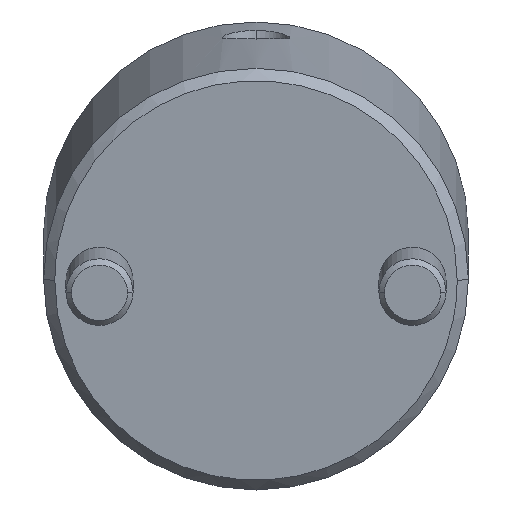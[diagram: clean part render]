
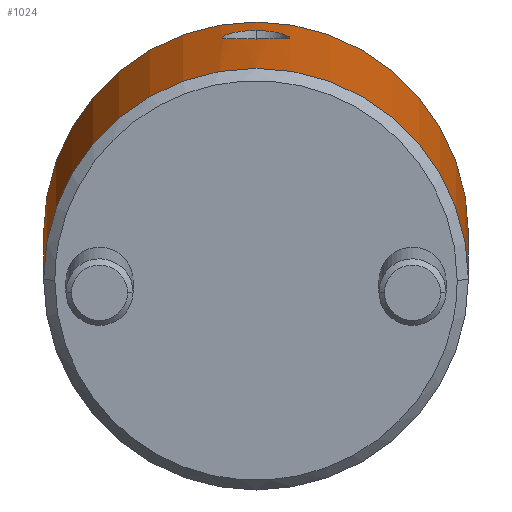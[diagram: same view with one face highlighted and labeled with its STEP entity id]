
A CAD part, front view. The second image highlights one B-rep face of the part: STEP entity #1024.
In plain terms, the highlighted cylindrical face has radius 19 mm (diameter 38 mm), a partial arc.
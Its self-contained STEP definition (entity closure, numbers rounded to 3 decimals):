
#760=CARTESIAN_POINT('Vertex',(0.,19.,1.)) ;
#763=CARTESIAN_POINT('Axis2P3D Location',(0.,0.,1.)) ;
#767=CARTESIAN_POINT('Vertex',(0.,-19.,1.)) ;
#919=CARTESIAN_POINT('Axis2P3D Location',(0.,0.,-1.8)) ;
#924=CARTESIAN_POINT('Line Origine',(0.,19.,-1.8)) ;
#928=CARTESIAN_POINT('Vertex',(0.,19.,35.)) ;
#931=CARTESIAN_POINT('Axis2P3D Location',(0.,0.,35.)) ;
#935=CARTESIAN_POINT('Vertex',(0.,-19.,35.)) ;
#938=CARTESIAN_POINT('Line Origine',(0.,-19.,-1.8)) ;
#950=CARTESIAN_POINT('Control Point',(19.,0.,28.749)) ;
#951=CARTESIAN_POINT('Control Point',(19.,0.083,28.749)) ;
#952=CARTESIAN_POINT('Control Point',(19.,0.165,28.746)) ;
#953=CARTESIAN_POINT('Control Point',(18.999,0.248,28.74)) ;
#954=CARTESIAN_POINT('Control Point',(18.995,0.495,28.714)) ;
#955=CARTESIAN_POINT('Control Point',(18.987,0.739,28.661)) ;
#956=CARTESIAN_POINT('Control Point',(18.979,0.904,28.613)) ;
#957=CARTESIAN_POINT('Control Point',(18.962,1.22,28.496)) ;
#958=CARTESIAN_POINT('Control Point',(18.94,1.514,28.337)) ;
#959=CARTESIAN_POINT('Control Point',(18.928,1.657,28.245)) ;
#960=CARTESIAN_POINT('Control Point',(18.903,1.931,28.043)) ;
#961=CARTESIAN_POINT('Control Point',(18.876,2.173,27.806)) ;
#962=CARTESIAN_POINT('Control Point',(18.862,2.286,27.678)) ;
#963=CARTESIAN_POINT('Control Point',(18.836,2.494,27.407)) ;
#964=CARTESIAN_POINT('Control Point',(18.813,2.664,27.109)) ;
#965=CARTESIAN_POINT('Control Point',(18.802,2.738,26.955)) ;
#966=CARTESIAN_POINT('Control Point',(18.783,2.864,26.639)) ;
#967=CARTESIAN_POINT('Control Point',(18.77,2.946,26.305)) ;
#968=CARTESIAN_POINT('Control Point',(18.766,2.976,26.134)) ;
#969=CARTESIAN_POINT('Control Point',(18.76,3.011,25.795)) ;
#970=CARTESIAN_POINT('Control Point',(18.762,2.998,25.456)) ;
#971=CARTESIAN_POINT('Control Point',(18.765,2.979,25.287)) ;
#972=CARTESIAN_POINT('Control Point',(18.777,2.904,24.869)) ;
#973=CARTESIAN_POINT('Control Point',(18.799,2.759,24.473)) ;
#974=CARTESIAN_POINT('Control Point',(18.816,2.645,24.245)) ;
#975=CARTESIAN_POINT('Control Point',(18.859,2.328,23.745)) ;
#976=CARTESIAN_POINT('Control Point',(18.907,1.9,23.338)) ;
#977=CARTESIAN_POINT('Control Point',(18.934,1.62,23.139)) ;
#978=CARTESIAN_POINT('Control Point',(18.971,1.134,22.89)) ;
#979=CARTESIAN_POINT('Control Point',(18.992,0.605,22.755)) ;
#980=CARTESIAN_POINT('Control Point',(18.997,0.404,22.72)) ;
#981=CARTESIAN_POINT('Control Point',(19.,0.203,22.704)) ;
#982=CARTESIAN_POINT('Control Point',(19.,0.,22.704)) ;
#983=CARTESIAN_POINT('Vertex',(19.,0.,28.749)) ;
#985=CARTESIAN_POINT('Vertex',(19.,0.,22.704)) ;
#989=CARTESIAN_POINT('Control Point',(19.,0.,22.704)) ;
#990=CARTESIAN_POINT('Control Point',(19.,-0.168,22.704)) ;
#991=CARTESIAN_POINT('Control Point',(18.998,-0.336,22.715)) ;
#992=CARTESIAN_POINT('Control Point',(18.994,-0.503,22.739)) ;
#993=CARTESIAN_POINT('Control Point',(18.983,-0.835,22.809)) ;
#994=CARTESIAN_POINT('Control Point',(18.966,-1.155,22.925)) ;
#995=CARTESIAN_POINT('Control Point',(18.956,-1.309,22.993)) ;
#996=CARTESIAN_POINT('Control Point',(18.933,-1.607,23.152)) ;
#997=CARTESIAN_POINT('Control Point',(18.907,-1.881,23.351)) ;
#998=CARTESIAN_POINT('Control Point',(18.894,-2.01,23.46)) ;
#999=CARTESIAN_POINT('Control Point',(18.867,-2.252,23.694)) ;
#1000=CARTESIAN_POINT('Control Point',(18.841,-2.457,23.961)) ;
#1001=CARTESIAN_POINT('Control Point',(18.828,-2.551,24.102)) ;
#1002=CARTESIAN_POINT('Control Point',(18.799,-2.759,24.466)) ;
#1003=CARTESIAN_POINT('Control Point',(18.778,-2.9,24.863)) ;
#1004=CARTESIAN_POINT('Control Point',(18.768,-2.959,25.114)) ;
#1005=CARTESIAN_POINT('Control Point',(18.759,-3.015,25.535)) ;
#1006=CARTESIAN_POINT('Control Point',(18.762,-2.996,25.959)) ;
#1007=CARTESIAN_POINT('Control Point',(18.765,-2.976,26.13)) ;
#1008=CARTESIAN_POINT('Control Point',(18.778,-2.898,26.553)) ;
#1009=CARTESIAN_POINT('Control Point',(18.801,-2.748,26.955)) ;
#1010=CARTESIAN_POINT('Control Point',(18.817,-2.632,27.187)) ;
#1011=CARTESIAN_POINT('Control Point',(18.861,-2.311,27.694)) ;
#1012=CARTESIAN_POINT('Control Point',(18.909,-1.881,28.106)) ;
#1013=CARTESIAN_POINT('Control Point',(18.936,-1.604,28.308)) ;
#1014=CARTESIAN_POINT('Control Point',(18.971,-1.123,28.56)) ;
#1015=CARTESIAN_POINT('Control Point',(18.992,-0.597,28.698)) ;
#1016=CARTESIAN_POINT('Control Point',(18.997,-0.399,28.732)) ;
#1017=CARTESIAN_POINT('Control Point',(19.,-0.2,28.749)) ;
#1018=CARTESIAN_POINT('Control Point',(19.,0.,28.749)) ;
#764=DIRECTION('Axis2P3D Direction',(0.,0.,1.)) ;
#920=DIRECTION('Axis2P3D Direction',(0.,-0.,1.)) ;
#921=DIRECTION('Axis2P3D XDirection',(0.,-1.,0.)) ;
#925=DIRECTION('Vector Direction',(0.,0.,1.)) ;
#932=DIRECTION('Axis2P3D Direction',(0.,-0.,1.)) ;
#939=DIRECTION('Vector Direction',(0.,0.,1.)) ;
#765=AXIS2_PLACEMENT_3D('Circle Axis2P3D',#763,#764,$) ;
#922=AXIS2_PLACEMENT_3D('Cylinder Axis2P3D',#919,#920,#921) ;
#933=AXIS2_PLACEMENT_3D('Circle Axis2P3D',#931,#932,$) ;
#944=ORIENTED_EDGE('',*,*,#930,.F.) ;
#945=ORIENTED_EDGE('',*,*,#937,.T.) ;
#946=ORIENTED_EDGE('',*,*,#942,.T.) ;
#947=ORIENTED_EDGE('',*,*,#769,.F.) ;
#1021=ORIENTED_EDGE('',*,*,#987,.T.) ;
#1022=ORIENTED_EDGE('',*,*,#1019,.T.) ;
#1023=FACE_BOUND('',#1020,.T.) ;
#926=VECTOR('Line Direction',#925,1.) ;
#940=VECTOR('Line Direction',#939,1.) ;
#1024=ADVANCED_FACE('MANIFOLD_SOLID_BREP #1118',(#948,#1023),#923,.T.) ;
#949=B_SPLINE_CURVE_WITH_KNOTS('',5,(#950,#951,#952,#953,#954,#955,#956,#957,#958,#959,#960,#961,#962,#963,#964,#965,#966,#967,#968,#969,#970,#971,#972,#973,#974,#975,#976,#977,#978,#979,#980,#981,#982),.UNSPECIFIED.,.F.,.U.,(6,3,3,3,3,3,3,3,3,3,6),(0.,0.591,1.779,2.983,4.199,5.399,6.591,7.777,9.567,11.962,13.402),.UNSPECIFIED.) ;
#988=B_SPLINE_CURVE_WITH_KNOTS('',5,(#989,#990,#991,#992,#993,#994,#995,#996,#997,#998,#999,#1000,#1001,#1002,#1003,#1004,#1005,#1006,#1007,#1008,#1009,#1010,#1011,#1012,#1013,#1014,#1015,#1016,#1017,#1018),.UNSPECIFIED.,.F.,.U.,(6,3,3,3,3,3,3,3,3,6),(0.,1.203,2.402,3.608,4.808,6.587,7.776,9.58,11.983,13.405),.UNSPECIFIED.) ;
#766=CIRCLE('generated circle',#765,19.) ;
#934=CIRCLE('generated circle',#933,19.) ;
#923=CYLINDRICAL_SURFACE('generated cylinder',#922,19.) ;
#769=EDGE_CURVE('',#761,#768,#766,.F.) ;
#930=EDGE_CURVE('',#929,#761,#927,.F.) ;
#937=EDGE_CURVE('',#929,#936,#934,.F.) ;
#942=EDGE_CURVE('',#936,#768,#941,.F.) ;
#987=EDGE_CURVE('',#984,#986,#949,.T.) ;
#1019=EDGE_CURVE('',#986,#984,#988,.T.) ;
#943=EDGE_LOOP('',(#944,#945,#946,#947)) ;
#1020=EDGE_LOOP('',(#1021,#1022)) ;
#948=FACE_OUTER_BOUND('',#943,.T.) ;
#927=LINE('Line',#924,#926) ;
#941=LINE('Line',#938,#940) ;
#761=VERTEX_POINT('',#760) ;
#768=VERTEX_POINT('',#767) ;
#929=VERTEX_POINT('',#928) ;
#936=VERTEX_POINT('',#935) ;
#984=VERTEX_POINT('',#983) ;
#986=VERTEX_POINT('',#985) ;
